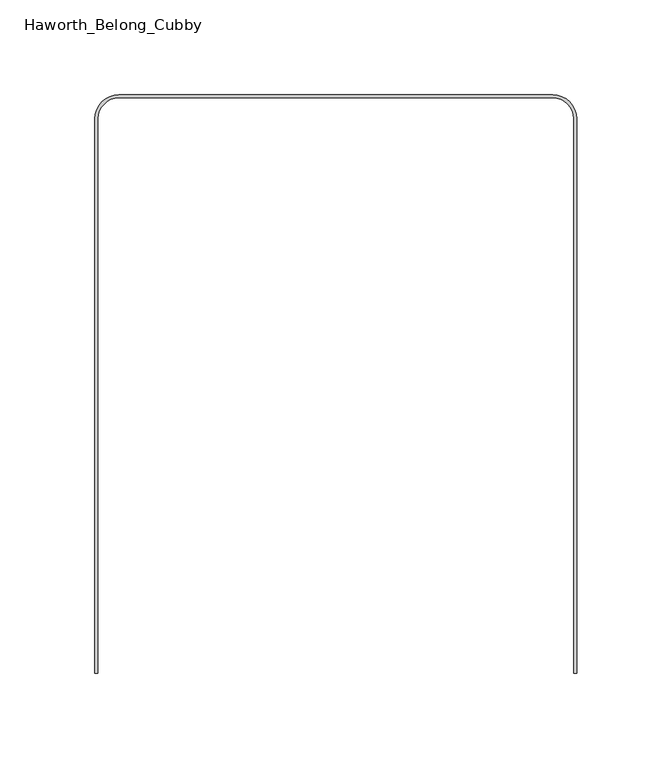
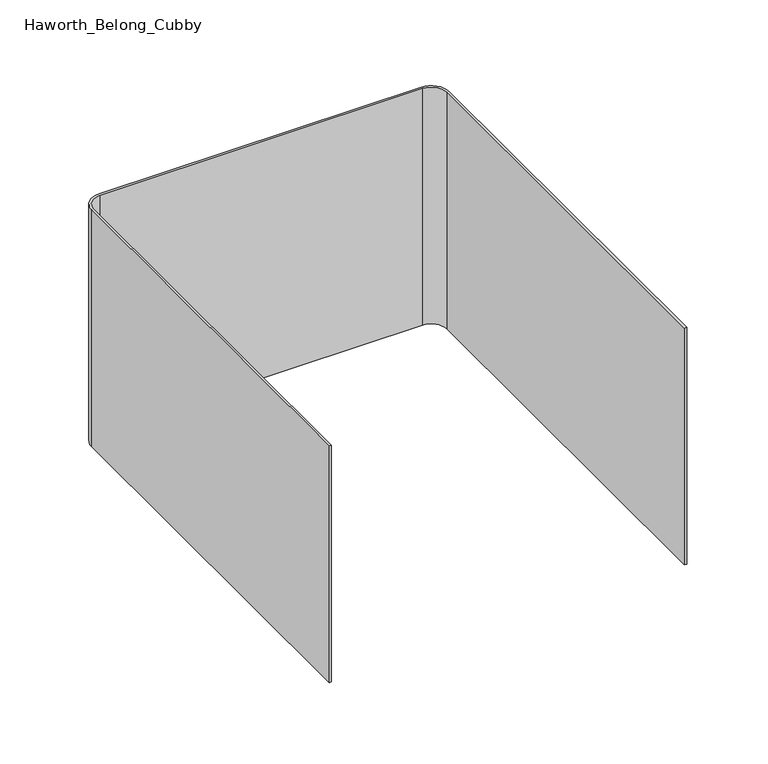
"""IFC4 building model written with IfcOpenShell, lengths in millimetres: furniture geometry, Haworth_Belong_Cubby : 7h - No Slots."""

import ifcopenshell
import ifcopenshell.guid

model = None  # the IFC model being written
_history = None  # IfcOwnerHistory: only IFC2X3 demands one
_inside = {}  # id of a spatial element -> (the spatial element, [elements in it])
_under = {}  # id of a project, library or spatial element -> (it, [spatial elements below it])
_declared = {}  # id of a project -> (the project, [libraries it declares])
_typed = {}  # id of a type object -> (the type object, [elements of that type])
_made_of = {}  # id of a material, layer set ... -> (it, [elements and type objects made of it])


def new_model(schema):
    """Start an empty IFC model of exactly this schema.

    Asked for "IFC4X3", IfcOpenShell would pick the latest addendum, in which some entities
    have other attributes; the version numbers below select the first issue.
    IFC2X3 requires an IfcOwnerHistory on every rooted entity: one is made here for all.
    """
    global model, _history
    if schema == "IFC4X3":
        model = ifcopenshell.file(schema_version=(4, 3, 0, 0))
    else:
        model = ifcopenshell.file(schema=schema)
    _inside.clear()
    _under.clear()
    _declared.clear()
    _typed.clear()
    _made_of.clear()
    _history = None
    if model.schema == "IFC2X3":
        org = make("IfcOrganization", Name="unknown")
        user = make(
            "IfcPersonAndOrganization",
            ThePerson=make("IfcPerson", FamilyName="unknown"),
            TheOrganization=org,
        )
        app = make(
            "IfcApplication",
            ApplicationDeveloper=org,
            Version="unknown",
            ApplicationFullName="unknown",
            ApplicationIdentifier="unknown",
        )
        _history = make(
            "IfcOwnerHistory",
            OwningUser=user,
            OwningApplication=app,
            ChangeAction="ADDED",
            CreationDate=0,
        )
    return model


def make(cls, **values):
    """One entity of the class cls with the attributes given. An attribute that is None is left unset."""
    return model.create_entity(
        cls, **{name: value for name, value in values.items() if value is not None}
    )


def rooted(cls, **values):
    """An entity with a GlobalId (a new one), such as an element, a storey or a relation."""
    return make(cls, GlobalId=ifcopenshell.guid.new(), OwnerHistory=_history, **values)


def si_unit(unit_type, name, prefix=None):
    """IfcSIUnit, for example si_unit("LENGTHUNIT", "METRE", prefix="MILLI")."""
    return make("IfcSIUnit", UnitType=unit_type, Prefix=prefix, Name=name)


def assignment(units):
    """IfcUnitAssignment: the units of a project."""
    return None if units is None else make("IfcUnitAssignment", Units=units)


def point(xyz):
    """IfcCartesianPoint."""
    return None if xyz is None else make("IfcCartesianPoint", Coordinates=xyz)


def direction(xyz):
    """IfcDirection."""
    return None if xyz is None else make("IfcDirection", DirectionRatios=xyz)


def frame(location, z_axis=None, x_axis=None):
    """IfcAxis2Placement3D, a coordinate frame: its origin and axes. An axis left out is left unset."""
    return make(
        "IfcAxis2Placement3D",
        Location=point(location),
        Axis=direction(z_axis),
        RefDirection=direction(x_axis),
    )


def frame_2d(location, x_axis=None):
    """IfcAxis2Placement2D, a coordinate frame in the plane: its origin and x axis."""
    return make(
        "IfcAxis2Placement2D", Location=point(location), RefDirection=direction(x_axis)
    )


def origin():
    """The frame at (0, 0, 0) with its axes left unset."""
    return frame((0.0, 0.0, 0.0))


def place(relative_to, where):
    """IfcLocalPlacement: puts the frame where relative to a parent placement (None: the world)."""
    return make(
        "IfcLocalPlacement", PlacementRelTo=relative_to, RelativePlacement=where
    )


def context(
    kind, dimensions, precision=None, world=None, true_north=None, identifier=None
):
    """IfcGeometricRepresentationContext, for example the 3D "Model" context."""
    return make(
        "IfcGeometricRepresentationContext",
        ContextIdentifier=identifier,
        ContextType=kind,
        CoordinateSpaceDimension=dimensions,
        Precision=precision,
        WorldCoordinateSystem=world,
        TrueNorth=true_north,
    )


def project(units=None, contexts=None):
    """IfcProject with its units and contexts."""
    return rooted(
        "IfcProject",
        Name="project",
        RepresentationContexts=contexts,
        UnitsInContext=assignment(units),
    )


def spatial(cls, under=None, at=None, **own):
    """A site, building, storey or space (cls), placed at a placement, below another one or the project."""
    s = rooted(cls, ObjectPlacement=at, **own)
    if under is not None:
        _under.setdefault(under.id(), (under, []))[1].append(s)
    return s


def polyline(points):
    """IfcPolyline through the points."""
    return make("IfcPolyline", Points=[point(p) for p in points])


def circle_curve(where, radius):
    """IfcCircle in the frame where."""
    return make("IfcCircle", Position=where, Radius=radius)


def trimmed(basis, trim1, trim2, sense, master):
    """IfcTrimmedCurve: the piece of a basis curve between two trims."""
    return make(
        "IfcTrimmedCurve",
        BasisCurve=basis,
        Trim1=trim1,
        Trim2=trim2,
        SenseAgreement=sense,
        MasterRepresentation=master,
    )


def segment(curve, same_sense, transition):
    """IfcCompositeCurveSegment."""
    return make(
        "IfcCompositeCurveSegment",
        Transition=transition,
        SameSense=same_sense,
        ParentCurve=curve,
    )


def composite_curve(segments, self_intersect=None):
    """IfcCompositeCurve: segments joined end to end."""
    return make("IfcCompositeCurve", Segments=segments, SelfIntersect=self_intersect)


def outline(outer, holes=None, kind="AREA"):
    """IfcArbitraryClosedProfileDef: a profile drawn as a closed curve; with holes, ...WithVoids."""
    if holes is None:
        return make("IfcArbitraryClosedProfileDef", ProfileType=kind, OuterCurve=outer)
    return make(
        "IfcArbitraryProfileDefWithVoids",
        ProfileType=kind,
        OuterCurve=outer,
        InnerCurves=holes,
    )


def extrude(swept, where, along, depth):
    """IfcExtrudedAreaSolid: the profile swept, set in the frame where, extruded along a direction by depth."""
    return make(
        "IfcExtrudedAreaSolid",
        SweptArea=swept,
        Position=where,
        ExtrudedDirection=direction(along),
        Depth=depth,
    )


def shape(context_of_items, identifier, shape_type, items):
    """IfcShapeRepresentation: the items that make up one representation, for example the "Body"."""
    return make(
        "IfcShapeRepresentation",
        ContextOfItems=context_of_items,
        RepresentationIdentifier=identifier,
        RepresentationType=shape_type,
        Items=items,
    )


def source(mapping_origin, context_of_items, identifier, shape_type, items):
    """IfcRepresentationMap: a shape defined once, which mapped items show again and again."""
    return make(
        "IfcRepresentationMap",
        MappingOrigin=mapping_origin,
        MappedRepresentation=shape(context_of_items, identifier, shape_type, items),
    )


def transform(
    local_origin,
    x_axis=None,
    y_axis=None,
    z_axis=None,
    scale=None,
    scale2=None,
    scale3=None,
    uniform=True,
):
    """IfcCartesianTransformationOperator3D, or its non-uniform kind. x_axis, y_axis, z_axis: its Axis1, 2, 3."""
    if uniform:
        return make(
            "IfcCartesianTransformationOperator3D",
            Axis1=direction(x_axis),
            Axis2=direction(y_axis),
            LocalOrigin=point(local_origin),
            Scale=scale,
            Axis3=direction(z_axis),
        )
    return make(
        "IfcCartesianTransformationOperator3DnonUniform",
        Axis1=direction(x_axis),
        Axis2=direction(y_axis),
        LocalOrigin=point(local_origin),
        Scale=scale,
        Axis3=direction(z_axis),
        Scale2=scale2,
        Scale3=scale3,
    )


def mapped(mapping_source, mapping_target):
    """IfcMappedItem: shows the shape of a source again, moved by a transform."""
    return make(
        "IfcMappedItem", MappingSource=mapping_source, MappingTarget=mapping_target
    )


def made_of(thing, what):
    """Note that an element or type object is made of a material, layer set ...; save() writes the relation."""
    if what is not None:
        _made_of.setdefault(what.id(), (what, []))[1].append(thing)
    return thing


def element(
    cls,
    number,
    at=None,
    inside=None,
    cuts=None,
    type_object=None,
    material=None,
    context=None,
    identifier="Body",
    shape_type=None,
    held_by="IfcProductDefinitionShape",
    body=None,
    shapes=None,
    **own,
):
    """One element of the class cls, such as IfcWall. Its Tag is "e" and its number.

    at: its placement. inside: the storey or other place that contains it. cuts: it is an
    opening in that element (IfcRelVoidsElement). A single representation is given by context,
    identifier, shape_type and body (its items); several are given by shapes. held_by: the class
    of the entity that holds the representations. save() writes the other relations.
    """
    e = rooted(cls, Tag="e%d" % number, ObjectPlacement=at, **own)
    if body is not None:
        shapes = [shape(context, identifier, shape_type, body)]
    if shapes is not None:
        e.Representation = make(held_by, Representations=shapes)
    if inside is not None:
        _inside.setdefault(inside.id(), (inside, []))[1].append(e)
    if cuts is not None:
        rooted(
            "IfcRelVoidsElement", RelatingBuildingElement=cuts, RelatedOpeningElement=e
        )
    if type_object is not None:
        _typed.setdefault(type_object.id(), (type_object, []))[1].append(e)
    return made_of(e, material)


def aggregate(whole, parts):
    """IfcRelAggregates: a whole, such as a stair, and the parts it consists of."""
    return rooted("IfcRelAggregates", RelatingObject=whole, RelatedObjects=parts)


def save(model, path):
    """Write the relations noted so far, then the file.

    IfcRelAggregates (storeys below a building ...), IfcRelContainedInSpatialStructure (elements
    in a storey), IfcRelDefinesByType, IfcRelAssociatesMaterial and IfcRelDeclares: one each for
    every whole, place, type object, material and project.
    """
    for whole, parts in _under.values():
        aggregate(whole, parts)
    for where, things in _inside.values():
        rooted(
            "IfcRelContainedInSpatialStructure",
            RelatedElements=things,
            RelatingStructure=where,
        )
    for kind, things in _typed.values():
        rooted("IfcRelDefinesByType", RelatedObjects=things, RelatingType=kind)
    for what, things in _made_of.values():
        rooted("IfcRelAssociatesMaterial", RelatedObjects=things, RelatingMaterial=what)
    for by, libraries in _declared.values():
        rooted("IfcRelDeclares", RelatingContext=by, RelatedDefinitions=libraries)
    model.write(path)


def haworth_belong_cubby_a7607ba5(model_context):
    return source(origin(), model_context, "Body", "SweptSolid", [
        extrude(outline(composite_curve([segment(polyline([(-127.0, -304.00625), (-127.0, -11.90625)]), True, "CONTINUOUS"), segment(trimmed(circle_curve(frame_2d((-114.3, -11.90625)), 12.7), [point((-127.0, -11.90625))], [point((-114.3, 0.79375))], False, "CARTESIAN"), True, "CONTINUOUS"), segment(polyline([(-114.3, 0.79375), (114.3, 0.79375)]), True, "CONTINUOUS"), segment(trimmed(circle_curve(frame_2d((114.3, -11.90625)), 12.7), [point((114.3, 0.79375))], [point((127.0, -11.90625))], False, "CARTESIAN"), True, "CONTINUOUS"), segment(polyline([(127.0, -11.90625), (127.0, -304.00625), (125.4125, -304.00625), (125.4125, -11.90625)]), True, "CONTINUOUS"), segment(trimmed(circle_curve(frame_2d((114.3, -11.90625)), 11.1125), [point((125.4125, -11.90625))], [point((114.3, -0.79375))], True, "CARTESIAN"), True, "CONTINUOUS"), segment(polyline([(114.3, -0.79375), (-114.3, -0.79375)]), True, "CONTINUOUS"), segment(trimmed(circle_curve(frame_2d((-114.3, -11.90625)), 11.1125), [point((-114.3, -0.79375))], [point((-125.4125, -11.90625))], True, "CARTESIAN"), True, "CONTINUOUS"), segment(polyline([(-125.4125, -11.90625), (-125.4125, -304.00625), (-127.0, -304.00625)]), True, "CONTINUOUS")], self_intersect=False)), frame((0.0, 0.0, 762.0), z_axis=(0.0, 0.0, 1.0), x_axis=(1.0, 0.0, 0.0)), (0.0, 0.0, 1.0), 177.8),
    ])


if __name__ == "__main__":
    model = new_model("IFC4")
    model_context = context("Model", 3, world=origin())
    ifc_project = project(units=[si_unit("LENGTHUNIT", "METRE", prefix="MILLI")], contexts=[model_context])
    site = spatial("IfcSite", under=ifc_project)
    building = spatial("IfcBuilding", under=site)
    placement = place(None, origin())
    haworth_belong_cubby_shape = haworth_belong_cubby_a7607ba5(model_context)
    element("IfcFurniture", 1, ObjectType="Haworth_Belong_Cubby : 7h - No Slots", at=placement, inside=building, context=model_context, shape_type="MappedRepresentation", body=[
        mapped(haworth_belong_cubby_shape, transform((0.0, 0.0, 0.0), x_axis=(1.0, 0.0, 0.0), y_axis=(0.0, 1.0, 0.0), z_axis=(0.0, 0.0, 1.0))),
    ])
    save(model, "model.ifc")
